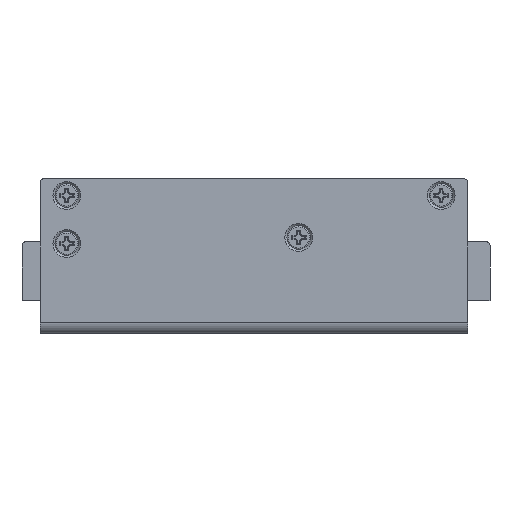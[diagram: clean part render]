
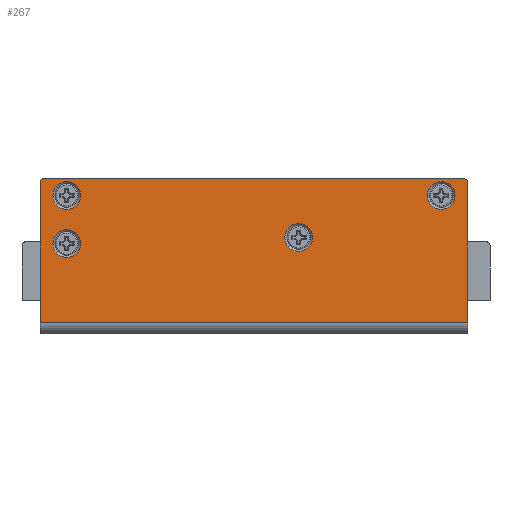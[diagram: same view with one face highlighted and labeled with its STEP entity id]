
A CAD part, front view. The second image highlights one B-rep face of the part: STEP entity #267.
In plain terms, the highlighted planar face has unit normal (0, -1, 0).
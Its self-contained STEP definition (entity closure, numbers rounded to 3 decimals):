
#162=CARTESIAN_POINT('',(101.9,0.,33.9));
#163=VERTEX_POINT('',#162);
#164=CARTESIAN_POINT('',(98.5,0.,33.9));
#165=DIRECTION('',(0.0,-1.0,0.0));
#166=DIRECTION('',(-1.0,0.0,0.0));
#167=AXIS2_PLACEMENT_3D('',#164,#165,#166);
#168=CIRCLE('',#167,3.4);
#169=EDGE_CURVE('',#163,#163,#168,.T.);
#174=CARTESIAN_POINT('',(52.5,0.,19.379));
#175=DIRECTION('',(0.0,1.0,0.0));
#176=DIRECTION('',(1.0,0.0,0.0));
#177=AXIS2_PLACEMENT_3D('',#174,#175,#176);
#178=PLANE('',#177);
#179=CARTESIAN_POINT('',(0.,0.,37.1));
#180=VERTEX_POINT('',#179);
#181=CARTESIAN_POINT('',(1.0,0.,38.1));
#182=VERTEX_POINT('',#181);
#183=CARTESIAN_POINT('',(1.0,0.,37.1));
#184=DIRECTION('',(0.,1.,0.));
#185=DIRECTION('',(-0.707,0.,0.707));
#186=AXIS2_PLACEMENT_3D('',#183,#184,#185);
#187=CIRCLE('',#186,1.);
#188=EDGE_CURVE('',#180,#182,#187,.T.);
#189=ORIENTED_EDGE('',*,*,#188,.F.);
#190=CARTESIAN_POINT('',(0.,0.,2.7));
#191=VERTEX_POINT('',#190);
#192=CARTESIAN_POINT('',(0.,0.,2.7));
#193=DIRECTION('',(0.0,0.0,1.0));
#194=VECTOR('',#193,34.4);
#195=LINE('',#192,#194);
#196=EDGE_CURVE('',#191,#180,#195,.T.);
#197=ORIENTED_EDGE('',*,*,#196,.F.);
#198=CARTESIAN_POINT('',(105.0,0.,2.7));
#199=VERTEX_POINT('',#198);
#200=CARTESIAN_POINT('',(0.,0.,2.7));
#201=DIRECTION('',(1.0,0.0,0.0));
#202=VECTOR('',#201,105.0);
#203=LINE('',#200,#202);
#204=EDGE_CURVE('',#191,#199,#203,.T.);
#205=ORIENTED_EDGE('',*,*,#204,.T.);
#206=CARTESIAN_POINT('',(105.0,0.,37.1));
#207=VERTEX_POINT('',#206);
#208=CARTESIAN_POINT('',(105.0,0.,37.1));
#209=DIRECTION('',(0.0,0.0,-1.0));
#210=VECTOR('',#209,34.4);
#211=LINE('',#208,#210);
#212=EDGE_CURVE('',#207,#199,#211,.T.);
#213=ORIENTED_EDGE('',*,*,#212,.F.);
#214=CARTESIAN_POINT('',(104.0,0.,38.1));
#215=VERTEX_POINT('',#214);
#216=CARTESIAN_POINT('',(104.0,0.0,37.1));
#217=DIRECTION('',(0.0,1.0,0.0));
#218=DIRECTION('',(0.707,0.0,0.707));
#219=AXIS2_PLACEMENT_3D('',#216,#217,#218);
#220=CIRCLE('',#219,1.0);
#221=EDGE_CURVE('',#215,#207,#220,.T.);
#222=ORIENTED_EDGE('',*,*,#221,.F.);
#223=CARTESIAN_POINT('',(1.0,0.,38.1));
#224=DIRECTION('',(1.0,0.0,0.0));
#225=VECTOR('',#224,103.0);
#226=LINE('',#223,#225);
#227=EDGE_CURVE('',#182,#215,#226,.T.);
#228=ORIENTED_EDGE('',*,*,#227,.F.);
#229=EDGE_LOOP('',(#189,#197,#205,#213,#222,#228));
#230=FACE_OUTER_BOUND('',#229,.T.);
#231=CARTESIAN_POINT('',(66.9,0.,23.6));
#232=VERTEX_POINT('',#231);
#233=CARTESIAN_POINT('',(63.5,0.,23.6));
#234=DIRECTION('',(0.0,-1.0,0.0));
#235=DIRECTION('',(-1.0,0.0,0.0));
#236=AXIS2_PLACEMENT_3D('',#233,#234,#235);
#237=CIRCLE('',#236,3.4);
#238=EDGE_CURVE('',#232,#232,#237,.T.);
#239=ORIENTED_EDGE('',*,*,#238,.F.);
#240=EDGE_LOOP('',(#239));
#241=FACE_BOUND('',#240,.T.);
#242=CARTESIAN_POINT('',(9.9,0.,22.1));
#243=VERTEX_POINT('',#242);
#244=CARTESIAN_POINT('',(6.5,0.,22.1));
#245=DIRECTION('',(0.0,-1.0,0.0));
#246=DIRECTION('',(-1.0,0.0,0.0));
#247=AXIS2_PLACEMENT_3D('',#244,#245,#246);
#248=CIRCLE('',#247,3.4);
#249=EDGE_CURVE('',#243,#243,#248,.T.);
#250=ORIENTED_EDGE('',*,*,#249,.F.);
#251=EDGE_LOOP('',(#250));
#252=FACE_BOUND('',#251,.T.);
#253=CARTESIAN_POINT('',(9.9,0.,33.9));
#254=VERTEX_POINT('',#253);
#255=CARTESIAN_POINT('',(6.5,0.,33.9));
#256=DIRECTION('',(0.0,-1.0,0.0));
#257=DIRECTION('',(-1.0,0.0,0.0));
#258=AXIS2_PLACEMENT_3D('',#255,#256,#257);
#259=CIRCLE('',#258,3.4);
#260=EDGE_CURVE('',#254,#254,#259,.T.);
#261=ORIENTED_EDGE('',*,*,#260,.F.);
#262=EDGE_LOOP('',(#261));
#263=FACE_BOUND('',#262,.T.);
#264=ORIENTED_EDGE('',*,*,#169,.F.);
#265=EDGE_LOOP('',(#264));
#266=FACE_BOUND('',#265,.T.);
#267=ADVANCED_FACE('',(#230,#241,#252,#263,#266),#178,.F.);
